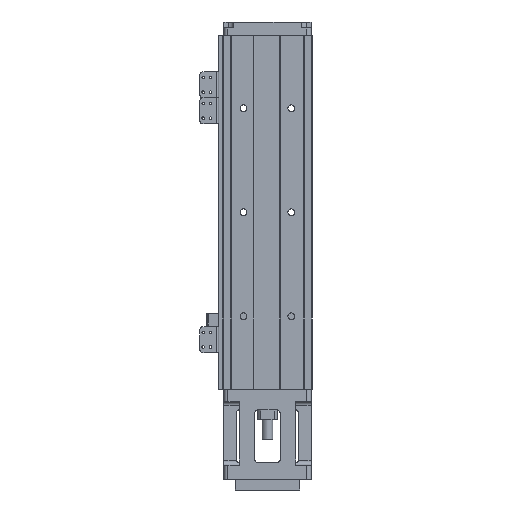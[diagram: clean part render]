
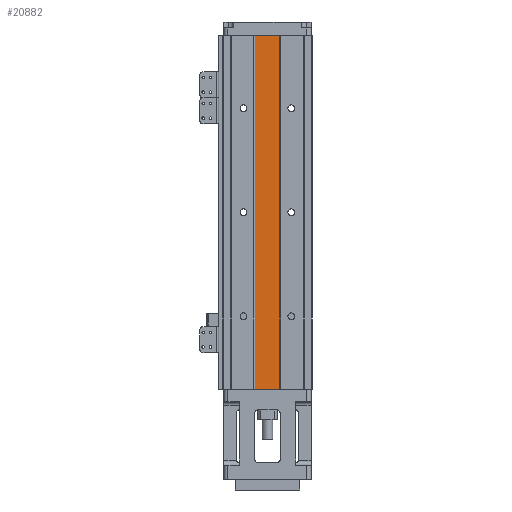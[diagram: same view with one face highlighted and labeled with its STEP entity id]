
A CAD part, front view. The second image highlights one B-rep face of the part: STEP entity #20882.
In plain terms, the highlighted planar face has unit normal (0, -1, 0).
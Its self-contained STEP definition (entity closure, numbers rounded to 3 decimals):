
#841 = ORIENTED_EDGE ( 'NONE', *, *, #27394, .F. ) ;
#1123 = DIRECTION ( 'NONE',  ( 1., 0., 0. ) ) ;
#1283 = VECTOR ( 'NONE', #6491, 1000. ) ;
#3230 = VECTOR ( 'NONE', #17954, 1000. ) ;
#3584 = VECTOR ( 'NONE', #1123, 1000. ) ;
#3684 = VERTEX_POINT ( 'NONE', #29293 ) ;
#3897 = CARTESIAN_POINT ( 'NONE',  ( 11.731, -13.462, 340. ) ) ;
#6491 = DIRECTION ( 'NONE',  ( 0., 0., 1. ) ) ;
#7745 = LINE ( 'NONE', #13225, #19715 ) ;
#7796 = CARTESIAN_POINT ( 'NONE',  ( -12.269, -13.462, 340. ) ) ;
#8063 = CARTESIAN_POINT ( 'NONE',  ( -12.269, -13.462, 340. ) ) ;
#8877 = CARTESIAN_POINT ( 'NONE',  ( 11.731, -13.462, 340. ) ) ;
#10386 = ORIENTED_EDGE ( 'NONE', *, *, #17979, .F. ) ;
#10917 = VERTEX_POINT ( 'NONE', #3897 ) ;
#11449 = CARTESIAN_POINT ( 'NONE',  ( -12.269, -13.462, 340. ) ) ;
#12919 = PLANE ( 'NONE',  #13651 ) ;
#13225 = CARTESIAN_POINT ( 'NONE',  ( -12.269, -13.462, 0. ) ) ;
#13276 = ORIENTED_EDGE ( 'NONE', *, *, #23283, .F. ) ;
#13651 = AXIS2_PLACEMENT_3D ( 'NONE', #11449, #25060, #24965 ) ;
#15081 = EDGE_CURVE ( 'NONE', #16856, #10917, #25197, .T. ) ;
#15400 = EDGE_LOOP ( 'NONE', ( #13276, #24467, #841, #10386 ) ) ;
#15468 = CARTESIAN_POINT ( 'NONE',  ( -12.269, -13.462, 340. ) ) ;
#15757 = FACE_OUTER_BOUND ( 'NONE', #15400, .T. ) ;
#16331 = LINE ( 'NONE', #8877, #3230 ) ;
#16856 = VERTEX_POINT ( 'NONE', #8063 ) ;
#17954 = DIRECTION ( 'NONE',  ( 0., 0., -1. ) ) ;
#17979 = EDGE_CURVE ( 'NONE', #3684, #22033, #7745, .T. ) ;
#19715 = VECTOR ( 'NONE', #26457, 1000. ) ;
#20882 = ADVANCED_FACE ( 'NONE', ( #15757 ), #12919, .F. ) ;
#22033 = VERTEX_POINT ( 'NONE', #22494 ) ;
#22494 = CARTESIAN_POINT ( 'NONE',  ( -12.269, -13.462, 0. ) ) ;
#23283 = EDGE_CURVE ( 'NONE', #10917, #3684, #16331, .T. ) ;
#24467 = ORIENTED_EDGE ( 'NONE', *, *, #15081, .F. ) ;
#24965 = DIRECTION ( 'NONE',  ( 0., 0., 1. ) ) ;
#25017 = LINE ( 'NONE', #15468, #1283 ) ;
#25060 = DIRECTION ( 'NONE',  ( 0., 1., 0. ) ) ;
#25197 = LINE ( 'NONE', #7796, #3584 ) ;
#26457 = DIRECTION ( 'NONE',  ( -1., 0., 0. ) ) ;
#27394 = EDGE_CURVE ( 'NONE', #22033, #16856, #25017, .T. ) ;
#29293 = CARTESIAN_POINT ( 'NONE',  ( 11.731, -13.462, 0. ) ) ;
